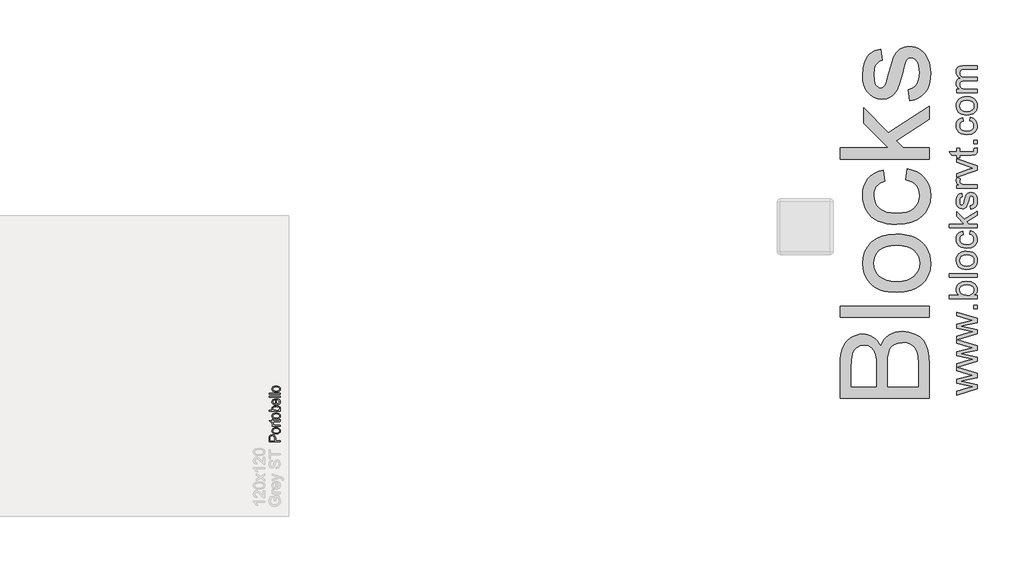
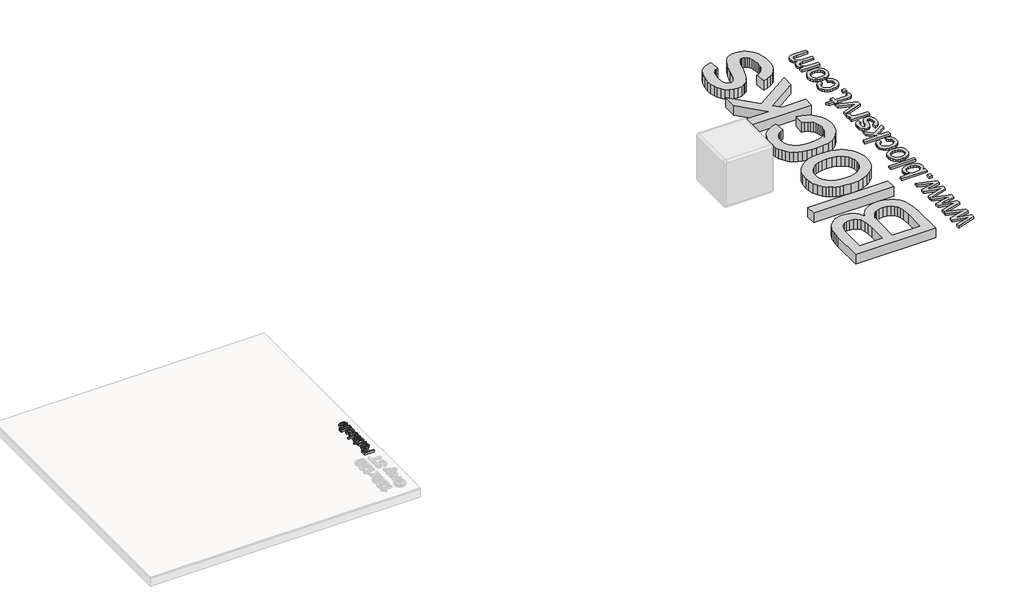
# One storey, part 12 of 12: 3 proxies.
"""IFC4 building model written with IfcOpenShell, lengths in millimetres."""

from ifc_helpers import new_model, si_unit, frame, origin, origin_with_axes, place, context, project, spatial, polyline, outline, extrude, element, save

model = new_model("IFC4")

# Units and contexts
model_context = context("Model", 3, world=origin())
ifc_project = project(units=[si_unit("LENGTHUNIT", "METRE", prefix="MILLI")], contexts=[model_context])

# Site, building, storey
site = spatial("IfcSite", under=ifc_project)
building = spatial("IfcBuilding", under=site)
storey = spatial("IfcBuildingStorey", under=building, Name="PORTOBELLO - SHOWROOM", Elevation=0.0)

# Proxies
placement = place(None, origin())
element("IfcBuildingElementProxy", 1, Name="10mm Arial Narrow", ObjectType="10mm Arial Narrow", at=placement, inside=storey, context=model_context, shape_type="SweptSolid", body=[
    extrude(outline(polyline([(-5684.554372, 22023.3301461), (-5785.2729757, 22023.3301461), (-5785.2729757, 22054.6270308), (-5783.394655, 22070.9227323), (-5773.9142118, 22082.3957184), (-5756.895103, 22086.6853968), (-5744.8192774, 22084.8990884), (-5735.1928837, 22079.5401632), (-5728.8916253, 22069.7963744), (-5726.7912058, 22054.8554752), (-5726.7912058, 22033.0771077), (-5684.554372, 22033.0771077), (-5684.554372, 22023.3301461)]), holes=[polyline([(-5738.1626611, 22033.0771077), (-5738.1626611, 22056.0484627), (-5742.6934753, 22071.9126581), (-5756.362066, 22076.9384352), (-5766.5278424, 22074.4636207), (-5772.3277923, 22068.4859919), (-5773.9015204, 22055.8200183), (-5773.9015204, 22033.0771077), (-5738.1626611, 22033.0771077)])]), frame((0.0, 0.0, 17.0), z_axis=(0.0, 0.0, 1.0), x_axis=(1.0, 0.0, 0.0)), (0.0, 0.0, 1.0), 20.0),
    extrude(outline(polyline([(-5721.1054782, 22094.8078649), (-5737.6962537, 22096.7623337), (-5749.6483385, 22102.6257404), (-5756.8728931, 22111.4843071), (-5759.281078, 22122.4242562), (-5756.8728931, 22133.2372918), (-5749.6483385, 22142.1212412), (-5737.8866241, 22148.060796), (-5721.8669595, 22150.0406476), (-5704.705073, 22148.0956972), (-5692.5626178, 22142.2608461), (-5685.3380632, 22133.411798), (-5682.9298783, 22122.4242562), (-5685.3444089, 22111.563628), (-5692.5880005, 22102.6891971), (-5704.546431, 22096.7781979), (-5721.1054782, 22094.8078649)]), holes=[polyline([(-5721.1308609, 22104.5548265), (-5708.5791095, 22105.8588634), (-5699.7078514, 22109.770974), (-5694.4345929, 22115.6121707), (-5692.67684, 22122.7034661), (-5694.450457, 22129.4235392), (-5699.7713082, 22135.1156125), (-5708.6584304, 22138.9991676), (-5721.1308609, 22140.2936859), (-5733.6445382, 22138.9896491), (-5742.5031049, 22135.0775385), (-5747.7763635, 22129.2363417), (-5749.5341163, 22122.1450464), (-5747.7668449, 22115.3773806), (-5742.4650308, 22109.6948258), (-5733.5969456, 22105.8398263), (-5721.1308609, 22104.5548265)])]), frame((0.0, 0.0, 17.0), z_axis=(0.0, 0.0, 1.0), x_axis=(1.0, 0.0, 0.0)), (0.0, 0.0, 1.0), 20.0),
    extrude(outline(polyline([(-5692.67684, 22221.5183664), (-5682.9298783, 22223.14286), (-5682.9298783, 22215.7818733), (-5685.0493349, 22207.507109), (-5690.8492847, 22203.1920478), (-5705.4951099, 22202.0244431), (-5747.9096227, 22202.0244431), (-5747.9096227, 22193.901975), (-5751.1586099, 22193.901975), (-5746.2851291, 22192.2774814), (-5747.9096227, 22184.713433), (-5745.5871045, 22178.6342734), (-5739.1018214, 22174.7634097), (-5723.6945148, 22172.7835581), (-5684.554372, 22172.7835581), (-5684.554372, 22163.0365964), (-5757.6565844, 22163.0365964), (-5757.6565844, 22172.7835581), (-5747.9603881, 22172.7835581), (-5757.0473993, 22179.0277054), (-5759.281078, 22185.424149), (-5757.6565844, 22193.901975), (-5757.6565844, 22202.0244431), (-5773.9015204, 22202.0244431), (-5782.0239885, 22211.7714047), (-5757.6565844, 22211.7714047), (-5757.6565844, 22221.5183664), (-5747.9096227, 22221.5183664), (-5747.9096227, 22211.7714047), (-5703.2614312, 22211.7714047), (-5695.2658767, 22212.6344169), (-5692.67684, 22217.2540706), (-5692.67684, 22221.5183664)])), frame((0.0, 0.0, 17.0), z_axis=(0.0, 0.0, 1.0), x_axis=(1.0, 0.0, 0.0)), (0.0, 0.0, 1.0), 20.0),
    extrude(outline(polyline([(-5721.1054782, 22228.0163408), (-5737.6962537, 22229.9708097), (-5749.6483385, 22235.8342163), (-5756.8728931, 22244.692783), (-5759.281078, 22255.6327321), (-5756.8728931, 22266.4457677), (-5749.6483385, 22275.3297172), (-5737.8866241, 22281.2692719), (-5721.8669595, 22283.2491235), (-5704.705073, 22281.3041731), (-5692.5626178, 22275.4693221), (-5685.3380632, 22266.6202739), (-5682.9298783, 22255.6327321), (-5685.3444089, 22244.772104), (-5692.5880005, 22235.8976731), (-5704.546431, 22229.9866739), (-5721.1054782, 22228.0163408)]), holes=[polyline([(-5721.1308609, 22237.7633025), (-5708.5791095, 22239.0673393), (-5699.7078514, 22242.9794499), (-5694.4345929, 22248.8206466), (-5692.67684, 22255.911942), (-5694.450457, 22262.6320152), (-5699.7713082, 22268.3240885), (-5708.6584304, 22272.2076435), (-5721.1308609, 22273.5021618), (-5733.6445382, 22272.198125), (-5742.5031049, 22268.2860144), (-5747.7763635, 22262.4448177), (-5749.5341163, 22255.3535223), (-5747.7668449, 22248.5858566), (-5742.4650308, 22242.9033018), (-5733.5969456, 22239.0483023), (-5721.1308609, 22237.7633025)])]), frame((0.0, 0.0, 17.0), z_axis=(0.0, 0.0, 1.0), x_axis=(1.0, 0.0, 0.0)), (0.0, 0.0, 1.0), 20.0),
    extrude(outline(polyline([(-5684.554372, 22305.992034), (-5684.554372, 22296.2450724), (-5785.2729757, 22296.2450724), (-5785.2729757, 22305.992034), (-5749.8640916, 22305.992034), (-5756.9458684, 22313.3910948), (-5759.281078, 22322.5923281), (-5755.080239, 22335.4740548), (-5742.3508086, 22344.7514362), (-5721.6638978, 22348.2288679), (-5705.2095544, 22346.2966089), (-5693.0068153, 22340.4998319), (-5685.4491126, 22332.1267095), (-5682.9298783, 22322.4654145), (-5685.5442978, 22313.1245763), (-5693.3114078, 22305.992034), (-5684.554372, 22305.992034)]), holes=[polyline([(-5721.6638978, 22305.992034), (-5704.4163446, 22308.0734165), (-5695.6846915, 22313.9622058), (-5692.67684, 22322.4146491), (-5694.4663212, 22328.3573767), (-5699.834765, 22333.595734), (-5721.2577744, 22338.4819062), (-5742.6934753, 22333.773413), (-5747.8239561, 22328.52871), (-5749.5341163, 22322.2115874), (-5747.7446351, 22316.2339586), (-5742.3761914, 22310.941663), (-5721.6638978, 22305.992034)])]), frame((0.0, 0.0, 17.0), z_axis=(0.0, 0.0, 1.0), x_axis=(1.0, 0.0, 0.0)), (0.0, 0.0, 1.0), 20.0),
    extrude(outline(polyline([(-5707.2972825, 22400.2126633), (-5705.6727889, 22409.959625), (-5695.7862223, 22406.2600946), (-5688.6663714, 22400.4411078), (-5684.3640016, 22392.7374545), (-5682.9298783, 22383.3839249), (-5685.3444089, 22371.7903709), (-5692.5880005, 22362.6462486), (-5704.3941347, 22356.7066939), (-5720.4962931, 22354.7268423), (-5737.1632167, 22356.7162124), (-5749.343746, 22362.6843227), (-5756.796745, 22371.6983585), (-5759.281078, 22382.8255052), (-5756.8824116, 22393.5084544), (-5749.6864126, 22402.2559717), (-5737.946908, 22408.0908228), (-5721.917725, 22410.0357731), (-5718.6687377, 22409.959625), (-5718.6687377, 22364.4738039), (-5699.2255799, 22370.4768155), (-5694.314025, 22376.4068517), (-5692.67684, 22383.5108384), (-5696.3319506, 22393.6893062), (-5707.2972825, 22400.2126633)]), holes=[polyline([(-5728.4156994, 22365.1337545), (-5728.4156994, 22400.2126633), (-5742.6807839, 22395.9483676), (-5747.8207832, 22390.1230351), (-5749.5341163, 22382.9016533), (-5743.823006, 22370.6925685), (-5728.4156994, 22365.1337545)])]), frame((0.0, 0.0, 17.0), z_axis=(0.0, 0.0, 1.0), x_axis=(1.0, 0.0, 0.0)), (0.0, 0.0, 1.0), 20.0),
    extrude(outline(polyline([(-5684.554372, 22422.9555739), (-5785.2729757, 22422.9555739), (-5785.2729757, 22432.7025355), (-5684.554372, 22432.7025355), (-5684.554372, 22422.9555739)])), frame((0.0, 0.0, 17.0), z_axis=(0.0, 0.0, 1.0), x_axis=(1.0, 0.0, 0.0)), (0.0, 0.0, 1.0), 20.0),
    extrude(outline(polyline([(-5684.554372, 22448.9474716), (-5785.2729757, 22448.9474716), (-5785.2729757, 22458.6944333), (-5684.554372, 22458.6944333), (-5684.554372, 22448.9474716)])), frame((0.0, 0.0, 17.0), z_axis=(0.0, 0.0, 1.0), x_axis=(1.0, 0.0, 0.0)), (0.0, 0.0, 1.0), 20.0),
    extrude(outline(polyline([(-5721.1054782, 22470.0658885), (-5737.6962537, 22472.0203574), (-5749.6483385, 22477.883764), (-5756.8728931, 22486.7423307), (-5759.281078, 22497.6822799), (-5756.8728931, 22508.4953155), (-5749.6483385, 22517.3792649), (-5737.8866241, 22523.3188196), (-5721.8669595, 22525.2986712), (-5704.705073, 22523.3537209), (-5692.5626178, 22517.5188698), (-5685.3380632, 22508.6698216), (-5682.9298783, 22497.6822799), (-5685.3444089, 22486.8216517), (-5692.5880005, 22477.9472208), (-5704.546431, 22472.0362216), (-5721.1054782, 22470.0658885)]), holes=[polyline([(-5721.1308609, 22479.8128502), (-5708.5791095, 22481.116887), (-5699.7078514, 22485.0289976), (-5694.4345929, 22490.8701944), (-5692.67684, 22497.9614897), (-5694.450457, 22504.6815629), (-5699.7713082, 22510.3736362), (-5708.6584304, 22514.2571912), (-5721.1308609, 22515.5517096), (-5733.6445382, 22514.2476727), (-5742.5031049, 22510.3355621), (-5747.7763635, 22504.4943654), (-5749.5341163, 22497.40307), (-5747.7668449, 22490.6354043), (-5742.4650308, 22484.9528495), (-5733.5969456, 22481.09785), (-5721.1308609, 22479.8128502)])]), frame((0.0, 0.0, 17.0), z_axis=(0.0, 0.0, 1.0), x_axis=(1.0, 0.0, 0.0)), (0.0, 0.0, 1.0), 20.0),
])
element("IfcBuildingElementProxy", 2, Name="25mm Arial", ObjectType="25mm Arial", at=placement, inside=storey, context=model_context, shape_type="SweptSolid", body=[
    extrude(outline(polyline([(578.9669276, 22994.4195771), (400.9469451, 22940.0311582), (578.9669276, 22885.4651928), (578.9669276, 22847.5733473), (470.809621, 22823.415763), (437.0871048, 22816.4260051), (578.9669276, 22785.3399765), (578.9669276, 22747.2028763), (400.9469451, 22692.8144575), (578.9669276, 22638.2484921), (578.9669276, 22600.3566466), (470.809621, 22576.1990622), (437.0871048, 22569.2093043), (578.9669276, 22538.1232757), (578.9669276, 22499.9861756), (394.5354207, 22443.6389166), (394.5354207, 22476.1964732), (502.1409042, 22508.0795795), (540.5845727, 22517.5831977), (503.5511186, 22525.3700332), (394.5354207, 22550.6925772), (394.5354207, 22587.9712861), (503.2445502, 22613.2938301), (536.7831255, 22620.2222743), (501.4051403, 22630.1550882), (394.5354207, 22662.0381944), (394.5354207, 22690.8556174), (394.5354207, 22694.779692), (394.5354207, 22723.413174), (502.1409042, 22755.2962802), (540.5845727, 22764.7998984), (503.5511186, 22772.586734), (394.5354207, 22797.909278), (394.5354207, 22835.1879868), (503.2445502, 22860.5105308), (536.7831255, 22867.4389751), (501.4051403, 22877.3717889), (394.5354207, 22909.2548952), (394.5354207, 22938.0723181), (394.5354207, 22941.9963928), (394.5354207, 22970.6298747), (502.1409042, 23002.512981), (540.5845727, 23012.0165992), (503.5511186, 23019.8034347), (394.5354207, 23045.1259787), (394.5354207, 23082.4046876), (503.2445502, 23107.7272316), (536.7831255, 23114.6556758), (501.4051403, 23124.5884897), (394.5354207, 23156.471596), (394.5354207, 23189.2130935), (578.9669276, 23132.6818936), (578.9669276, 23094.7900481), (470.809621, 23070.6324637), (437.0871048, 23063.6427058), (578.9669276, 23032.5566772), (578.9669276, 22994.4195771)])), origin_with_axes(), (0.0, 0.0, 1.0), 20.0),
    extrude(outline(polyline([(578.9669276, 23218.6436531), (547.5743307, 23218.6436531), (547.5743307, 23250.0362501), (578.9669276, 23250.0362501), (578.9669276, 23218.6436531)])), origin_with_axes(), (0.0, 0.0, 1.0), 20.0),
    extrude(outline(polyline([(578.9669276, 23340.2899662), (578.9669276, 23308.8973693), (327.8261522, 23308.8973693), (327.8261522, 23340.2899662), (420.9616106, 23340.2899662), (407.6833699, 23350.6136547), (398.1989122, 23362.2709154), (392.5082376, 23375.2617484), (390.611346, 23389.5861536), (392.3204645, 23405.7576329), (397.4478198, 23421.0400641), (405.6715152, 23434.5597275), (416.669654, 23445.4429032), (446.5600661, 23460.4340945), (483.9920592, 23465.8603539), (525.8999498, 23460.2424893), (542.8301858, 23453.2201585), (557.0779489, 23443.3888954), (568.3711597, 23431.5879307), (576.4377389, 23418.6564954), (581.2776864, 23404.5945893), (582.8910022, 23389.4022126), (580.8101697, 23374.6064586), (574.567672, 23361.4891662), (564.1635094, 23350.0503354), (549.5976816, 23340.2899662), (578.9669276, 23340.2899662)]), holes=[polyline([(485.4635871, 23340.2899662), (511.6445225, 23342.4359445), (529.3641719, 23348.8738794), (545.9648469, 23365.3212703), (551.4984053, 23386.7044113), (547.4210465, 23404.8225995), (535.1889701, 23420.3043002), (514.8788183, 23430.9268928), (486.5672331, 23434.467757), (457.8417807, 23431.0725127), (437.7615551, 23420.88678), (425.943346, 23405.8879245), (422.003943, 23388.0533119), (426.0813017, 23369.9351237), (438.3133781, 23354.453423), (458.2556479, 23343.8308304), (485.4635871, 23340.2899662)])]), origin_with_axes(), (0.0, 0.0, 1.0), 20.0),
    extrude(outline(polyline([(578.9669276, 23501.1770254), (327.8261522, 23501.1770254), (327.8261522, 23532.5696224), (578.9669276, 23532.5696224), (578.9669276, 23501.1770254)])), origin_with_axes(), (0.0, 0.0, 1.0), 20.0),
    extrude(outline(polyline([(486.7511741, 23571.8103685), (462.8656692, 23573.5079906), (442.2834379, 23578.600857), (425.0044805, 23587.0889676), (411.0287968, 23598.9723225), (395.7157087, 23624.1415823), (390.611346, 23654.2772491), (392.1652643, 23671.5964436), (396.8270189, 23687.2563371), (404.59661, 23701.2569295), (415.4740376, 23713.5982208), (429.0914195, 23723.6709065), (445.080874, 23730.865682), (463.4424008, 23735.1825472), (484.1760002, 23736.6215023), (515.8904938, 23734.0769852), (540.0327498, 23726.4434338), (558.112617, 23713.9431102), (571.6399445, 23696.7982764), (580.0782378, 23676.4344751), (582.8910022, 23654.2772491), (581.3428321, 23636.7051357), (576.6983219, 23620.8996222), (568.9574716, 23606.8607088), (558.1202812, 23594.5883954), (544.3706916, 23584.6230086), (527.8926439, 23577.5048752), (508.6861381, 23573.2339952), (486.7511741, 23571.8103685)]), holes=[polyline([(486.6898605, 23603.2029654), (515.1010804, 23606.8358001), (535.3422543, 23617.7343042), (547.4593675, 23634.1357099), (551.4984053, 23654.2772491), (547.4363749, 23674.3268178), (535.2502838, 23690.6975666), (514.7408626, 23701.5960707), (485.7088418, 23705.2289054), (458.1253564, 23701.5730781), (438.1600939, 23690.6055961), (426.0429807, 23674.2118547), (422.003943, 23654.2772491), (426.0276523, 23634.1357099), (438.0987803, 23617.7343042), (458.2939689, 23606.8358001), (486.6898605, 23603.2029654)])]), origin_with_axes(), (0.0, 0.0, 1.0), 20.0),
    extrude(outline(polyline([(512.2576591, 23889.6604123), (516.1817337, 23921.0530093), (544.1024443, 23912.3004835), (565.2020096, 23895.8530926), (578.468754, 23873.2590067), (582.8910022, 23846.0663959), (581.3485803, 23828.4597935), (576.7213146, 23812.6734406), (569.009205, 23798.7073372), (558.2122517, 23786.5614832), (544.533556, 23776.7302201), (528.1762196, 23769.7078893), (487.4256244, 23764.0900247), (459.4895854, 23766.4889218), (435.2783516, 23773.6856134), (415.7269564, 23785.7950624), (401.7704332, 23802.932232), (393.4011178, 23823.433989), (390.611346, 23845.6372002), (394.4434502, 23872.1630249), (405.9397625, 23893.3698891), (424.4871464, 23908.5833425), (449.4724653, 23917.1289346), (453.3965399, 23885.7363377), (439.7005998, 23880.041831), (429.882749, 23871.1743421), (423.9736445, 23859.6243803), (422.003943, 23845.8824549), (425.8820323, 23825.5952957), (437.5163004, 23809.4927942), (457.5352123, 23798.9851647), (486.5672331, 23795.4826216), (515.9901285, 23798.9085227), (536.0780183, 23809.1862259), (547.6433085, 23824.9974875), (551.4984053, 23845.0240636), (549.0918439, 23861.2798493), (541.8721597, 23874.6079074), (529.6554118, 23884.3031308), (512.2576591, 23889.6604123)])), origin_with_axes(), (0.0, 0.0, 1.0), 20.0),
    extrude(outline(polyline([(578.9669276, 23948.5215316), (327.8261522, 23948.5215316), (327.8261522, 23979.9141285), (462.7775308, 23979.9141285), (394.5354207, 24050.3022169), (394.5354207, 24093.7122923), (463.6359221, 24022.4044989), (578.9669276, 24097.6363669), (578.9669276, 24060.9707948), (485.4635871, 23999.9023836), (504.9000192, 23979.9141285), (578.9669276, 23979.9141285), (578.9669276, 23948.5215316)])), origin_with_axes(), (0.0, 0.0, 1.0), 20.0),
    extrude(outline(polyline([(524.029883, 24113.3326654), (520.1058083, 24144.7252623), (533.5335012, 24149.6763408), (543.4050014, 24159.2566011), (549.4750543, 24173.5273569), (551.4984053, 24192.5499217), (549.6436669, 24211.3425603), (544.0794517, 24224.5556553), (536.0167046, 24232.3731477), (526.6663706, 24234.9789785), (518.6649372, 24232.3578193), (512.5642274, 24224.4943416), (503.6124322, 24192.1820397), (488.2533589, 24144.9092033), (480.5355012, 24132.9453743), (470.3191117, 24124.2771548), (458.2556479, 24119.0118437), (444.9965677, 24117.25674), (421.6054041, 24122.8975973), (403.7324705, 24138.2873274), (394.4434502, 24158.2449257), (390.611346, 24185.2535955), (392.1518519, 24205.6863746), (396.7733695, 24223.4520093), (404.0237105, 24237.7380934), (413.4506866, 24247.732221), (425.7517408, 24254.3540969), (441.624316, 24258.5234262), (445.5483907, 24227.1308292), (435.6692262, 24223.1684336), (428.2272801, 24215.3279486), (423.5597772, 24203.5327321), (422.003943, 24187.7061421), (423.4907994, 24169.6799243), (427.9513686, 24157.6624458), (434.3893035, 24150.9026142), (441.808257, 24148.6493369), (450.9439933, 24152.3894706), (457.8724375, 24164.1003807), (464.5556271, 24191.1397074), (479.3322205, 24237.2169273), (486.3986205, 24249.38769), (496.0708513, 24258.6153967), (508.3795697, 24264.4325307), (523.3554326, 24266.3715754), (538.8371333, 24264.0953056), (553.3991289, 24257.266496), (565.8994525, 24246.1457299), (575.1961371, 24230.9935902), (580.9672859, 24212.6914609), (582.8910022, 24192.120726), (579.1815254, 24160.467546), (568.0530951, 24137.3676224), (549.6283385, 24121.9472355), (524.029883, 24113.3326654)])), origin_with_axes(), (0.0, 0.0, 1.0), 20.0),
    extrude(outline(polyline([(578.9669276, 24464.7825981), (394.5354207, 24399.7901123), (394.5354207, 24432.9608055), (505.0226465, 24472.324179), (542.1787281, 24484.1577165), (507.1073112, 24495.7459994), (394.5354207, 24535.2933139), (394.5354207, 24568.5253208), (578.9669276, 24504.4525399), (578.9669276, 24464.7825981)])), origin_with_axes(), (0.0, 0.0, 1.0), 20.0),
    extrude(outline(polyline([(578.9669276, 24301.6882469), (394.5354207, 24301.6882469), (394.5354207, 24329.1567692), (421.820002, 24329.1567692), (406.0010762, 24339.3041809), (396.681399, 24348.654515), (390.611346, 24368.2748881), (393.0332358, 24383.9098729), (400.2989052, 24399.7901123), (428.4418779, 24389.3054755), (422.003943, 24367.2325557), (423.552113, 24357.8592291), (428.1966232, 24349.4822495), (445.3644497, 24338.1698781), (482.0300218, 24333.0808439), (578.9669276, 24333.0808439), (578.9669276, 24301.6882469)])), origin_with_axes(), (0.0, 0.0, 1.0), 20.0),
    extrude(outline(polyline([(552.7859923, 24662.7031115), (579.8866326, 24666.6271862), (582.8910022, 24643.1440521), (581.5880868, 24628.0762187), (577.6793406, 24616.8404895), (564.0063931, 24603.719365), (528.3831532, 24599.9179177), (425.9280176, 24599.9179177), (425.9280176, 24576.37347), (394.5354207, 24576.37347), (394.5354207, 24599.9179177), (349.7151309, 24599.9179177), (331.2597175, 24631.3105146), (394.5354207, 24631.3105146), (394.5354207, 24662.7031115), (425.9280176, 24662.7031115), (425.9280176, 24631.3105146), (527.4634482, 24631.3105146), (543.650256, 24632.9659836), (549.3830838, 24638.3309294), (551.4984053, 24649.030164), (552.7859923, 24662.7031115)])), origin_with_axes(), (0.0, 0.0, 1.0), 20.0),
    extrude(outline(polyline([(578.9669276, 24701.9438577), (547.5743307, 24701.9438577), (547.5743307, 24733.3364546), (578.9669276, 24733.3364546), (578.9669276, 24701.9438577)])), origin_with_axes(), (0.0, 0.0, 1.0), 20.0),
    extrude(outline(polyline([(512.2576591, 24909.9198123), (516.1817337, 24941.3124092), (544.1024443, 24932.5598834), (565.2020096, 24916.1124925), (578.468754, 24893.5184067), (582.8910022, 24866.3257959), (581.3485803, 24848.7191935), (576.7213146, 24832.9328406), (569.009205, 24818.9667371), (558.2122517, 24806.8208831), (544.533556, 24796.98962), (528.1762196, 24789.9672892), (487.4256244, 24784.3494246), (459.4895854, 24786.7483218), (435.2783516, 24793.9450133), (415.7269564, 24806.0544623), (401.7704332, 24823.1916319), (393.4011178, 24843.693389), (390.611346, 24865.8966002), (394.4434502, 24892.4224249), (405.9397625, 24913.6292891), (424.4871464, 24928.8427424), (449.4724653, 24937.3883346), (453.3965399, 24905.9957377), (439.7005998, 24900.301231), (429.882749, 24891.433742), (423.9736445, 24879.8837802), (422.003943, 24866.1418549), (425.8820323, 24845.8546957), (437.5163004, 24829.7521942), (457.5352123, 24819.2445647), (486.5672331, 24815.7420215), (515.9901285, 24819.1679226), (536.0780183, 24829.4456259), (547.6433085, 24845.2568874), (551.4984053, 24865.2834635), (549.0918439, 24881.5392492), (541.8721597, 24894.8673073), (529.6554118, 24904.5625307), (512.2576591, 24909.9198123)])), origin_with_axes(), (0.0, 0.0, 1.0), 20.0),
    extrude(outline(polyline([(486.7511741, 24960.9327823), (462.8656692, 24962.6304044), (442.2834379, 24967.7232708), (425.0044805, 24976.2113814), (411.0287968, 24988.0947363), (395.7157087, 25013.2639961), (390.611346, 25043.3996629), (392.1652643, 25060.7188574), (396.8270189, 25076.3787509), (404.59661, 25090.3793433), (415.4740376, 25102.7206346), (429.0914195, 25112.7933203), (445.080874, 25119.9880957), (463.4424008, 25124.304961), (484.1760002, 25125.7439161), (515.8904938, 25123.199399), (540.0327498, 25115.5658476), (558.112617, 25103.065524), (571.6399445, 25085.9206902), (580.0782378, 25065.5568889), (582.8910022, 25043.3996629), (581.3428321, 25025.8275495), (576.6983219, 25010.022036), (568.9574716, 24995.9831226), (558.1202812, 24983.7108092), (544.3706916, 24973.7454224), (527.8926439, 24966.627289), (508.6861381, 24962.356409), (486.7511741, 24960.9327823)]), holes=[polyline([(486.6898605, 24992.3253792), (515.1010804, 24995.9582139), (535.3422543, 25006.856718), (547.4593675, 25023.2581236), (551.4984053, 25043.3996629), (547.4363749, 25063.4492316), (535.2502838, 25079.8199804), (514.7408626, 25090.7184845), (485.7088418, 25094.3513192), (458.1253564, 25090.6954919), (438.1600939, 25079.7280099), (426.0429807, 25063.3342685), (422.003943, 25043.3996629), (426.0276523, 25023.2581236), (438.0987803, 25006.856718), (458.2939689, 24995.9582139), (486.6898605, 24992.3253792)])]), origin_with_axes(), (0.0, 0.0, 1.0), 20.0),
    extrude(outline(polyline([(578.9669276, 25161.0605877), (394.5354207, 25161.0605877), (394.5354207, 25192.4531846), (424.8856853, 25192.4531846), (410.9444905, 25201.8954891), (400.0229938, 25214.035595), (392.964258, 25228.4596349), (390.611346, 25244.7537416), (393.0102432, 25262.2128079), (400.2069348, 25276.2076522), (411.7262397, 25286.6616322), (427.0929772, 25293.4981059), (411.1322636, 25304.9407688), (399.7317538, 25317.9929154), (392.891448, 25332.6545458), (390.611346, 25348.9256599), (394.4051291, 25372.523757), (405.7864783, 25389.9751592), (425.0619621, 25400.7587002), (452.5381486, 25404.3532138), (578.9669276, 25404.3532138), (578.9669276, 25372.9606169), (466.0271551, 25372.9606169), (439.8155629, 25370.0482178), (426.9090362, 25359.5022672), (422.003943, 25341.56802), (425.1462683, 25324.5611419), (434.5732445, 25310.6965892), (450.9286648, 25301.4765467), (474.8563229, 25298.4031992), (578.9669276, 25298.4031992), (578.9669276, 25267.0106023), (462.5322761, 25267.0106023), (444.7819698, 25265.1941849), (432.1206978, 25259.7449329), (424.5331317, 25250.1570084), (422.003943, 25235.9245737), (423.6900688, 25223.8304531), (428.7484462, 25212.6866943), (437.0564479, 25203.4896444), (448.4914466, 25197.2356505), (485.9540965, 25192.4531846), (578.9669276, 25192.4531846), (578.9669276, 25161.0605877)])), origin_with_axes(), (0.0, 0.0, 1.0), 20.0),
])
element("IfcBuildingElementProxy", 3, Name="80mm Arial", ObjectType="80mm Arial", at=placement, inside=storey, context=model_context, shape_type="SweptSolid", body=[
    extrude(outline(polyline([(149.5235049, 22416.4416928), (-649.8651934, 22416.4416928), (-649.8651934, 22721.4818626), (-648.3953702, 22765.7290322), (-643.9859003, 22805.3776675), (-636.636784, 22840.4277686), (-626.348021, 22870.8793354), (-613.0098322, 22897.5069222), (-596.5124382, 22921.0850832), (-576.855839, 22941.6138182), (-554.0400345, 22959.0931274), (-529.3518826, 22973.053399), (-504.0782409, 22983.0250217), (-478.2191094, 22989.0079953), (-451.7744882, 22991.0023198), (-427.3485868, 22989.3251355), (-403.64235, 22984.2935828), (-380.6557777, 22975.9076617), (-358.38887, 22964.167372), (-337.5368958, 22949.0361208), (-318.7951243, 22930.4773149), (-302.1635555, 22908.4909543), (-287.6421895, 22883.077039), (-274.78581, 22913.2358609), (-258.0749561, 22939.6987787), (-237.509628, 22962.4657924), (-213.0898255, 22981.5369018), (-185.5596087, 22996.6071645), (-155.6630373, 23007.3716379), (-123.4001115, 23013.8303219), (-88.7708312, 23015.9832166), (-33.0273261, 23010.1039235), (18.6665415, 22992.4660442), (62.627065, 22966.1434), (95.170538, 22934.2098122), (118.7365012, 22895.1039746), (135.7644953, 22847.2645814), (146.0837525, 22789.1303264), (149.5235049, 22719.1399036), (149.5235049, 22416.4416928)]), holes=[polyline([(-325.1135347, 22516.3652801), (-325.1135347, 22698.8429249), (-327.2603306, 22762.6613098), (-333.700718, 22805.4020629), (-348.5087301, 22842.7026403), (-370.6841551, 22869.5131926), (-399.8854574, 22885.6873475), (-435.7711011, 22891.0787325), (-470.6077424, 22886.0532786), (-500.9556288, 22870.9769171), (-524.643569, 22846.5327192), (-539.5003719, 22813.4037564), (-547.3312976, 22762.5637281), (-549.9416061, 22684.9863337), (-549.9416061, 22516.3652801), (-325.1135347, 22516.3652801)]), polyline([(49.5999176, 22516.3652801), (49.5999176, 22721.2866994), (45.6966525, 22795.4487368), (37.036283, 22829.8706562), (23.9359494, 22858.1937238), (5.1758814, 22881.222988), (-20.4636914, 22899.7634974), (-51.8361849, 22911.9855963), (-87.7950149, 22916.0596293), (-129.5599518, 22911.2781295), (-165.469991, 22896.9336302), (-180.7354169, 22885.8886096), (-193.5491045, 22871.8795471), (-203.9110536, 22854.9064427), (-211.8212644, 22834.9692963), (-221.8477767, 22782.6899389), (-225.1899474, 22711.5285366), (-225.1899474, 22516.3652801), (49.5999176, 22516.3652801)])]), origin_with_axes(), (0.0, 0.0, 1.0), 100.0),
    extrude(outline(polyline([(149.5235049, 23140.8877007), (-649.8651934, 23140.8877007), (-649.8651934, 23240.811288), (149.5235049, 23240.811288), (149.5235049, 23140.8877007)])), origin_with_axes(), (0.0, 0.0, 1.0), 100.0),
    extrude(outline(polyline([(-144.0020328, 23365.7157721), (-220.0303188, 23371.1193548), (-254.1015542, 23377.8738331), (-285.5441845, 23387.3301028), (-314.3582096, 23399.4881638), (-340.5436297, 23414.3480161), (-364.1004446, 23431.9096597), (-385.0286545, 23452.1730947), (-413.4615014, 23490.2543251), (-433.7706777, 23532.2876115), (-445.9561836, 23578.2729538), (-450.0180188, 23628.210352), (-445.0718501, 23683.3378731), (-430.2333437, 23733.1837886), (-405.5024998, 23777.7480984), (-370.8793184, 23817.0308026), (-327.5347789, 23849.0924663), (-276.6398609, 23871.9936547), (-218.1945645, 23885.7343677), (-152.1988895, 23890.3146054), (-98.7119596, 23888.2897866), (-51.2506951, 23882.2153303), (-9.8150963, 23872.0912363), (25.5948371, 23857.9175048), (56.1805787, 23839.8710025), (83.1436023, 23818.1285959), (106.483908, 23792.6902852), (126.2014958, 23763.5560704), (141.8694459, 23731.8603377), (153.0608389, 23698.7374738), (159.7756747, 23664.1874786), (162.0139533, 23628.210352), (157.0860811, 23572.2777825), (142.3024644, 23521.9683543), (117.6631033, 23477.2820674), (83.1679977, 23438.2189219), (39.4026375, 23406.4987939), (-13.0474877, 23383.8415596), (-74.1823778, 23370.247219), (-144.0020328, 23365.7157721)]), holes=[polyline([(-144.197196, 23465.6393594), (-95.7296211, 23468.5302152), (-53.7634221, 23477.2027824), (-18.2985991, 23491.657061), (10.664848, 23511.8930512), (33.1635121, 23536.5080169), (49.2339865, 23564.0992223), (58.8762711, 23594.6666673), (62.090366, 23628.210352), (58.8579746, 23661.5832689), (49.1608003, 23692.0287369), (32.9988431, 23719.546756), (10.3721031, 23744.1373263), (-18.87799, 23764.3733165), (-54.9100062, 23778.8275952), (-97.7239456, 23787.5001624), (-147.3198081, 23790.3910181), (-194.2504724, 23787.4818658), (-235.1188781, 23778.754409), (-269.9250251, 23764.2086475), (-298.6689135, 23743.8445815), (-321.1675776, 23719.1625284), (-337.238052, 23691.6628058), (-346.8803367, 23661.3454137), (-350.0944316, 23628.210352), (-346.8925344, 23594.6666673), (-337.2868429, 23564.0992223), (-321.277357, 23536.5080169), (-298.8640767, 23511.8930512), (-269.9860136, 23491.657061), (-234.5821792, 23477.2027824), (-192.6525733, 23468.5302152), (-144.197196, 23465.6393594)])]), origin_with_axes(), (0.0, 0.0, 1.0), 100.0),
    extrude(outline(polyline([(-62.8141181, 24377.4420935), (-50.3236697, 24477.3656808), (-3.1734467, 24466.4975269), (38.5487982, 24449.5061259), (74.8430651, 24426.3914777), (105.7093538, 24397.1535824), (130.3426161, 24363.0244079), (147.9378035, 24325.2359224), (158.4949159, 24283.7881258), (162.0139533, 24238.6810181), (157.1043777, 24182.6386693), (142.3756506, 24132.3902296), (117.8277723, 24087.9356991), (83.4607426, 24049.2750778), (39.9210399, 24017.9818694), (-12.1448576, 23995.6295777), (-72.7369499, 23982.2182026), (-141.8552369, 23977.7477443), (-187.7978873, 23979.6566849), (-230.7764957, 23985.3835067), (-270.7910621, 23994.9282097), (-307.8415865, 24008.2907939), (-341.1840091, 24025.5627421), (-370.0742699, 24046.8355371), (-394.5123689, 24072.1091788), (-414.4983062, 24101.3836672), (-430.0381805, 24133.3355516), (-441.1380907, 24166.6413811), (-447.7980368, 24201.3011557), (-450.0180188, 24237.3148753), (-446.968593, 24281.6474288), (-437.8203153, 24321.7473792), (-422.5731859, 24357.6147264), (-401.2272047, 24389.2494705), (-374.2702799, 24416.1149125), (-342.1903197, 24437.6743535), (-304.9873239, 24453.9277934), (-262.6612927, 24464.8752323), (-250.1708443, 24364.9516451), (-273.51115, 24357.1512136), (-293.7654367, 24346.8258576), (-310.9337044, 24333.9755769), (-325.0159531, 24318.6003717), (-335.9877874, 24301.0905682), (-343.8248119, 24281.8364932), (-348.5270267, 24260.8381466), (-350.0944316, 24238.0955284), (-347.0084126, 24204.1432206), (-337.7503556, 24173.5208859), (-322.3202606, 24146.2285243), (-300.7181277, 24122.2661357), (-272.4438509, 24102.7559089), (-236.9973245, 24088.8200326), (-194.3785483, 24080.4585068), (-144.5875225, 24077.6713316), (-94.046338, 24080.3975183), (-50.9335549, 24088.5760785), (-15.2491732, 24102.2070122), (13.006807, 24121.2903194), (34.4808641, 24144.7769975), (49.8194763, 24171.6180442), (59.0226436, 24201.8134592), (62.090366, 24235.3632428), (60.1753266, 24262.3994527), (54.4302082, 24287.1059011), (44.8550109, 24309.4825883), (31.4497348, 24329.529514), (14.0680072, 24346.685584), (-7.4365441, 24360.3897039), (-33.0639192, 24370.6418737), (-62.8141181, 24377.4420935)])), origin_with_axes(), (0.0, 0.0, 1.0), 100.0),
    extrude(outline(polyline([(149.5235049, 24564.7988196), (-649.8651934, 24564.7988196), (-649.8651934, 24664.7224069), (-220.310866, 24664.7224069), (-437.5275704, 24888.7698253), (-437.5275704, 25026.9454109), (-217.5785804, 24799.9705436), (149.5235049, 25039.4358593), (149.5235049, 24922.7282319), (-148.1004611, 24728.3456285), (-86.2337089, 24664.7224069), (149.5235049, 24664.7224069), (149.5235049, 24564.7988196)])), origin_with_axes(), (0.0, 0.0, 1.0), 100.0),
    extrude(outline(polyline([(-25.3427729, 25089.3976529), (-37.8332213, 25189.3212402), (-15.0479111, 25195.3591035), (4.9075319, 25205.0806732), (22.0331076, 25218.4859494), (36.3288162, 25235.574932), (47.5994942, 25256.3964119), (55.6499786, 25280.9991799), (60.4802692, 25309.383236), (62.090366, 25341.5485802), (60.6144439, 25373.6773313), (56.1866775, 25401.3661183), (48.8070669, 25424.6149413), (38.475612, 25443.4238001), (26.1559314, 25457.9390673), (12.8116438, 25468.3071153), (-1.557251, 25474.5279441), (-16.9507528, 25476.6015537), (-30.4414129, 25474.5157464), (-42.4195578, 25468.2583245), (-52.8851874, 25457.829288), (-61.8383018, 25443.2286368), (-74.5239135, 25405.8060824), (-90.3321372, 25340.3776007), (-116.7035723, 25249.1875691), (-139.220533, 25189.90673), (-163.7867079, 25151.8254996), (-179.0521338, 25136.7186438), (-196.3057855, 25124.2342942), (-234.7041562, 25107.4746496), (-276.9082104, 25101.8881013), (-315.6237214, 25106.3768562), (-351.3629927, 25119.8431209), (-382.7110908, 25141.0671251), (-408.253082, 25168.8290983), (-424.3296552, 25196.4203037), (-437.8203153, 25232.3547383), (-446.968593, 25273.9001165), (-450.0180188, 25318.3241527), (-445.114542, 25383.3623079), (-430.4041116, 25439.9108615), (-407.3260565, 25485.3839002), (-393.1889181, 25502.9973841), (-377.3197058, 25517.195511), (-338.1650775, 25538.2731427), (-287.6421895, 25551.5442442), (-275.1517411, 25451.6206569), (-291.8442984, 25446.8574536), (-306.5974208, 25439.0082314), (-319.4111083, 25428.0729902), (-330.285361, 25414.05173), (-338.9518294, 25396.8834623), (-345.1421639, 25376.5071985), (-350.0944316, 25326.130683), (-345.3617226, 25268.7526856), (-339.4458364, 25247.2359366), (-331.1635957, 25230.5006873), (-310.6714538, 25208.9839383), (-299.2544033, 25203.604751), (-287.0566997, 25201.8116886), (-271.6875933, 25204.7879283), (-257.9773745, 25213.7166473), (-245.7308802, 25228.9881721), (-235.9239265, 25250.9928293), (-214.6511316, 25337.0598253), (-188.548046, 25425.3468035), (-167.6167868, 25483.7250125), (-145.1242215, 25522.4649189), (-114.3372178, 25551.836989), (-95.8089061, 25562.6380555), (-75.1581941, 25570.353103), (-52.3850816, 25574.9821315), (-27.4895687, 25576.525141), (-2.4842764, 25574.713782), (21.7891536, 25569.2797051), (45.3307214, 25560.2229102), (68.140427, 25547.5433974), (89.3095414, 25531.4485276), (107.9293359, 25512.1456618), (123.9998103, 25489.6347999), (137.5209646, 25463.915942), (148.2366472, 25435.6904561), (155.8907062, 25405.65971), (160.4831415, 25373.8237038), (162.0139533, 25340.1824374), (159.0621091, 25286.4027626), (150.2065763, 25239.4294063), (135.447355, 25199.2623686), (114.7844453, 25165.9016494), (88.3154286, 25138.6519798), (56.1378867, 25116.8180905), (18.2518196, 25100.3999815), (-25.3427729, 25089.3976529)])), origin_with_axes(), (0.0, 0.0, 1.0), 100.0),
])

save(model, "model.ifc")
